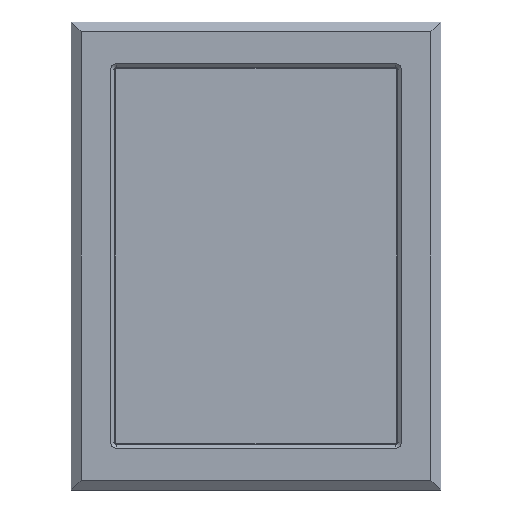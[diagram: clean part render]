
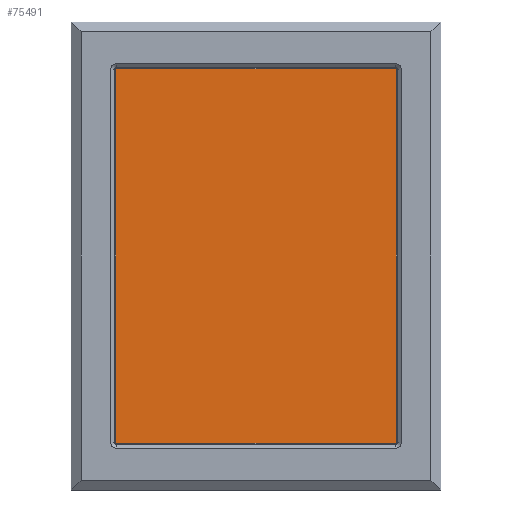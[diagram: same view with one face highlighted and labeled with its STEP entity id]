
A CAD part, front view. The second image highlights one B-rep face of the part: STEP entity #75491.
In plain terms, the highlighted planar face has unit normal (0, -1, 0).
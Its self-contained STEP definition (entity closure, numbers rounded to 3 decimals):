
#75219=DIRECTION('',(0.,0.,1.));
#75220=VECTOR('',#75219,304.1);
#75221=CARTESIAN_POINT('',(114.05,-2.4,-152.05));
#75222=LINE('',#75221,#75220);
#75223=DIRECTION('',(1.,0.,0.));
#75224=VECTOR('',#75223,228.1);
#75225=CARTESIAN_POINT('',(-114.05,-2.4,-152.05));
#75226=LINE('',#75225,#75224);
#75227=DIRECTION('',(0.,0.,-1.));
#75228=VECTOR('',#75227,304.1);
#75229=CARTESIAN_POINT('',(-114.05,-2.4,152.05));
#75230=LINE('',#75229,#75228);
#75231=DIRECTION('',(-1.,0.,0.));
#75232=VECTOR('',#75231,228.1);
#75233=CARTESIAN_POINT('',(114.05,-2.4,152.05));
#75234=LINE('',#75233,#75232);
#75243=CARTESIAN_POINT('',(114.05,-2.4,-152.05));
#75244=CARTESIAN_POINT('',(114.05,-2.4,152.05));
#75245=VERTEX_POINT('',#75243);
#75246=VERTEX_POINT('',#75244);
#75247=CARTESIAN_POINT('',(-114.05,-2.4,152.05));
#75248=VERTEX_POINT('',#75247);
#75249=CARTESIAN_POINT('',(-114.05,-2.4,-152.05));
#75250=VERTEX_POINT('',#75249);
#75480=CARTESIAN_POINT('',(0.,-2.4,0.));
#75481=DIRECTION('',(0.,-1.,0.));
#75482=DIRECTION('',(0.,0.,-1.));
#75483=AXIS2_PLACEMENT_3D('',#75480,#75481,#75482);
#75484=PLANE('',#75483);
#75485=ORIENTED_EDGE('',*,*,#75432,.F.);
#75486=ORIENTED_EDGE('',*,*,#75447,.F.);
#75487=ORIENTED_EDGE('',*,*,#75461,.F.);
#75488=ORIENTED_EDGE('',*,*,#75474,.F.);
#75489=EDGE_LOOP('',(#75485,#75486,#75487,#75488));
#75490=FACE_OUTER_BOUND('',#75489,.F.);
#75432=EDGE_CURVE('',#75245,#75246,#75222,.T.);
#75447=EDGE_CURVE('',#75250,#75245,#75226,.T.);
#75461=EDGE_CURVE('',#75248,#75250,#75230,.T.);
#75474=EDGE_CURVE('',#75246,#75248,#75234,.T.);
#75491=ADVANCED_FACE('',(#75490),#75484,.T.);
